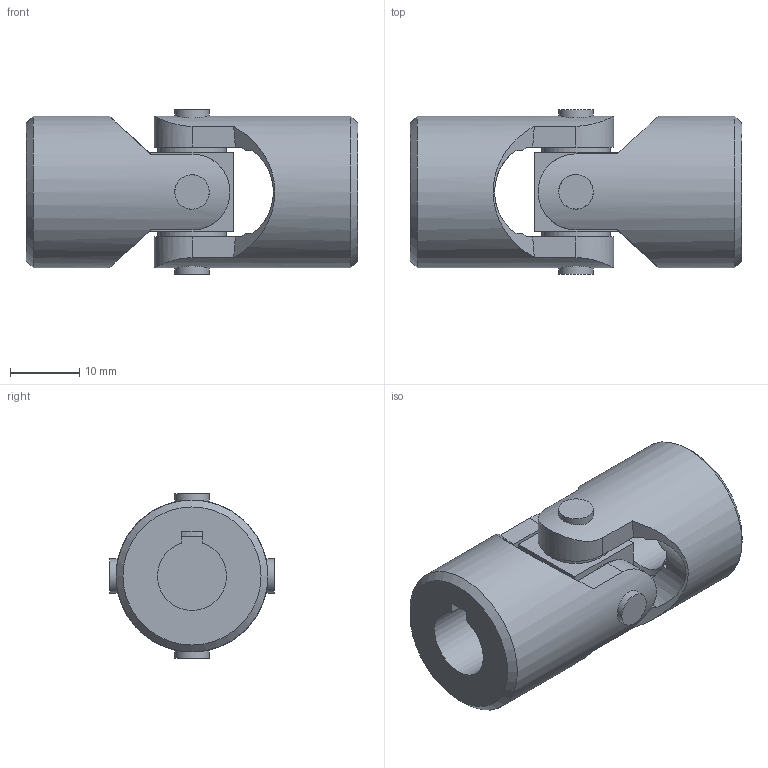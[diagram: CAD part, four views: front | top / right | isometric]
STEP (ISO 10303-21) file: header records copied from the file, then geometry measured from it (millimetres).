
FILE_DESCRIPTION(/* description */ ('EXTENSIBLE TRANSIMISSIONS Series G DIN 808 -2-'),/* implementation_level */ '2;1');
FILE_NAME(/* name */ '\\SRV2016\societa\Stefano\Disegni 3D\0Catalogo 3D\13Singoli X\Ø22_03X_SX0S102C.stp',/* time_stamp */ '2023-05-12T15:52:07+02:00',/* author */ ('acquisti'),/* organization */ ('MARIOFERRI'),/* preprocessor_version */ 'ST-DEVELOPER v15.6',/* originating_system */ 'Autodesk Inventor 2015',/* authorisation */ '');
FILE_SCHEMA (('AUTOMOTIVE_DESIGN { 1 0 10303 214 3 1 1 }'));
Length unit declared in the file: millimetre
Products named in the file (3): 03X SFE; 03X MOC; Ø22_03X_SX0S1000
Assembly tree (3 placements, depth 2):
  Ø22_03X_SX0S1000
    03X SFE
    03X MOC  x2
Bounding box: 48 x 23.8 x 23.8 mm (x, y, z)
Volume: 12469.1 mm3; surface area: 6500.8 mm2
Topology: 3 solids, 3 shells, 70 faces, 182 edges, 124 vertices
Faces by surface type: plane 38, cylinder 18, cone 12, torus 2
Full cylindrical faces by diameter (mm): 5 x4, 10 x4, 22 x2
Entity records: 1443 total; most frequent: CARTESIAN_POINT 464, DIRECTION 187, ORIENTED_EDGE 182, EDGE_CURVE 91, AXIS2_PLACEMENT_3D 77, VERTEX_POINT 67, EDGE_LOOP 58, FACE_OUTER_BOUND 42
